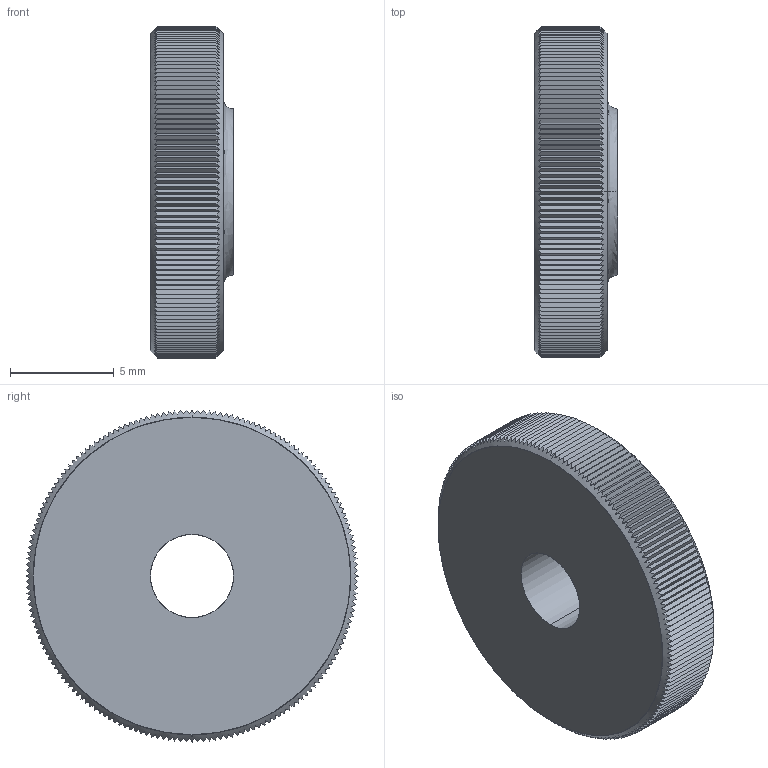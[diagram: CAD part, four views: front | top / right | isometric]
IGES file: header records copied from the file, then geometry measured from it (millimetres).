
Start section: SolidWorks IGES file using analytic representation for surfaces
Global section: file name: C:\Documents and Settings\IANO\Desktop\Temp File\Process pending\EXISTING\37120_v2\37120_v2_20170629_IGES\37120.W0004.igs; native system: SolidWorks 2009; preprocessor: SolidWorks 2009; author: IANO; date: 170627.122038; units: millimetre
Bounding box: 4 x 16 x 16 mm (x, y, z)
Surface area: 674.1 mm2 (no closed solid volume)
Topology: 0 solids, 0 shells, 371 faces, 2380 edges, 2380 vertices
Faces by surface type: bspline 365, revolution 6
